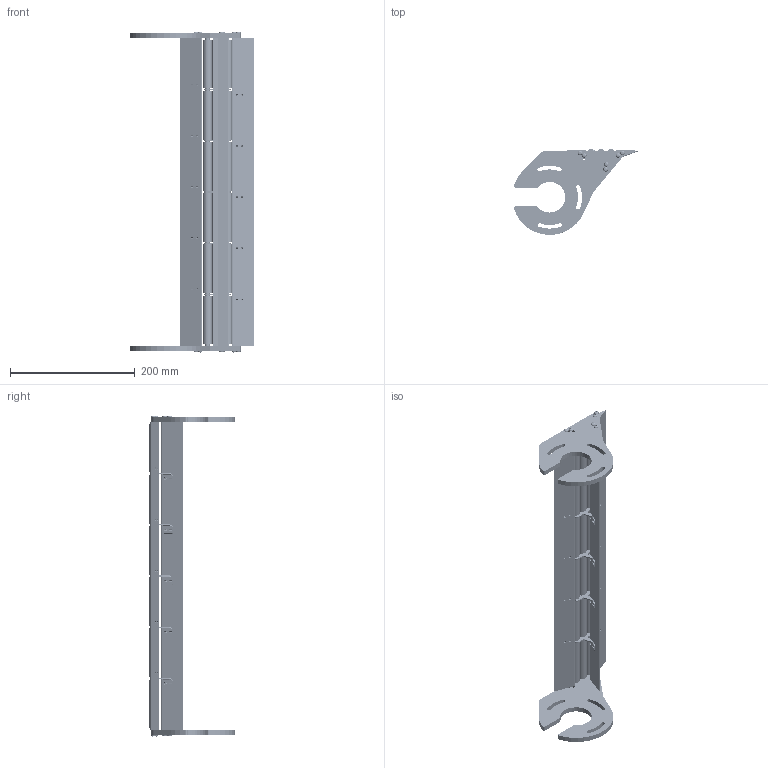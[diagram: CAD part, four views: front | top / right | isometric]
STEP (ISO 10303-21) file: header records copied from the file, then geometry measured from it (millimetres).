
FILE_DESCRIPTION (( 'STEP AP214' ), '1' );
FILE_NAME ('F2 1800 TGRI 2M.STEP', '2024-02-26T14:54:34', ( '' ), ( '' ), 'SwSTEP 2.0', 'SolidWorks 2022', '' );
FILE_SCHEMA (( 'AUTOMOTIVE_DESIGN' ));
Length unit declared in the file: millimetre
Products named in the file (13): SA TGRI; PSTI F2 2M Symétrie; GR F2 1800; PT-F2 - F2-1800 ALU; ENTRETOISE SA TGRI; ENTRETOISE TGRI CAB-F2-R-HEF; ROULEMENT TGRI CAB-F2-R-HEF; F2 1800 TGRI 2M; TBHC 4X16; SA TGRI + ENTRETOISE; AXE TGRI F2 1800; Galet + roulement F2 1800; PSTI F2 2M
Assembly tree (56 placements, depth 3):
  F2 1800 TGRI 2M
    PSTI F2 2M
    PSTI F2 2M Symétrie
    PT-F2 - F2-1800 ALU  x3
    AXE TGRI F2 1800  x3
    ENTRETOISE TGRI CAB-F2-R-HEF  x6
    SA TGRI + ENTRETOISE  x5
      SA TGRI
      ENTRETOISE SA TGRI
    Galet + roulement F2 1800  x18
      GR F2 1800
      ROULEMENT TGRI CAB-F2-R-HEF
    TBHC 4X16  x12
Bounding box: 198.67 x 136.6 x 514.78 mm (x, y, z)
Volume: 805347.5 mm3; surface area: 364734.7 mm2
Topology: 100 solids, 100 shells, 3982 faces, 8820 edges, 5153 vertices
Faces by surface type: cone 1540, cylinder 1211, plane 614, torus 527, sphere 65, bspline 25
Entity records: 18175 total; most frequent: CARTESIAN_POINT 3376, DIRECTION 3254, ORIENTED_EDGE 2678, EDGE_CURVE 1339, AXIS2_PLACEMENT_3D 1328, VERTEX_POINT 811, CIRCLE 703, EDGE_LOOP 634
